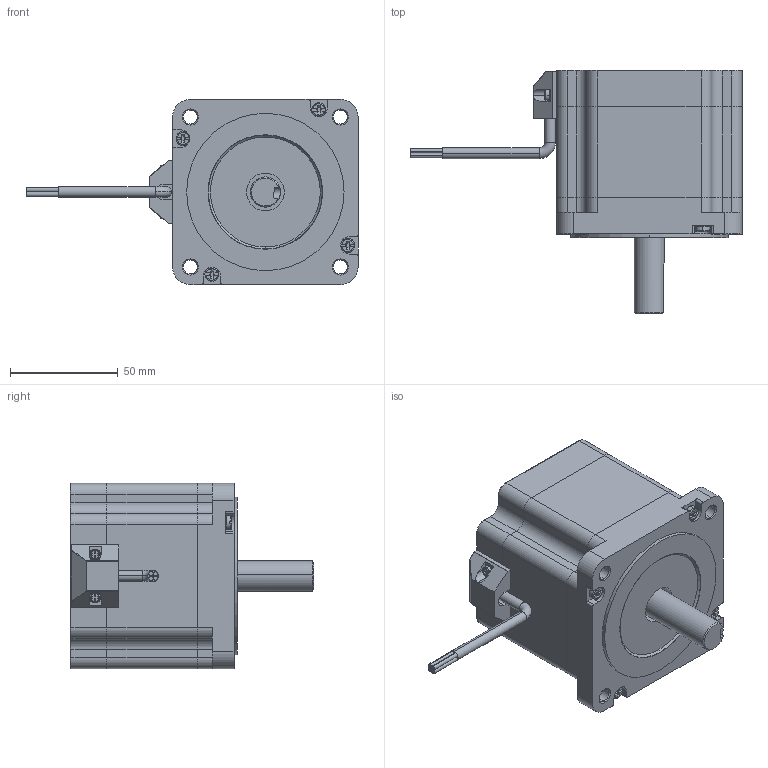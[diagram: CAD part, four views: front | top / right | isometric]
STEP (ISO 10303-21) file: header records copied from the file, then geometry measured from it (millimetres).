
FILE_DESCRIPTION (( 'STEP AP214' ), '1' );
FILE_NAME ('86BYGH280-4504A.STEP', '2018-09-20T07:05:18', ( 'Windows' ), ( 'Microsoft' ), 'SwSTEP 2.0', 'SolidWorks 2015', '' );
FILE_SCHEMA (( 'AUTOMOTIVE_DESIGN' ));
Length unit declared in the file: millimetre
Products named in the file (8): M3x8; M4x70; 86揤盄裔; 86H280A37瑩羞; 86綴傷裔; 86ヶ傷裔; 86隅赽42; 86BYGH280-4504A
Assembly tree (11 placements, depth 2):
  86BYGH280-4504A
    86隅赽42
    86ヶ傷裔
    86綴傷裔
    86H280A37瑩羞
    86揤盄裔
    M4x70  x4
    M3x8  x2
Bounding box: 154.09 x 113 x 86 mm (x, y, z)
Volume: 524228.5 mm3; surface area: 84458.7 mm2
Topology: 15 solids, 15 shells, 470 faces, 1198 edges, 765 vertices
Faces by surface type: cylinder 199, plane 196, torus 52, cone 17, bspline 4, sphere 2
Entity records: 13090 total; most frequent: CARTESIAN_POINT 1976, DIRECTION 1950, ORIENTED_EDGE 1754, EDGE_CURVE 877, AXIS2_PLACEMENT_3D 746, VERTEX_POINT 562, VECTOR 458, LINE 458
